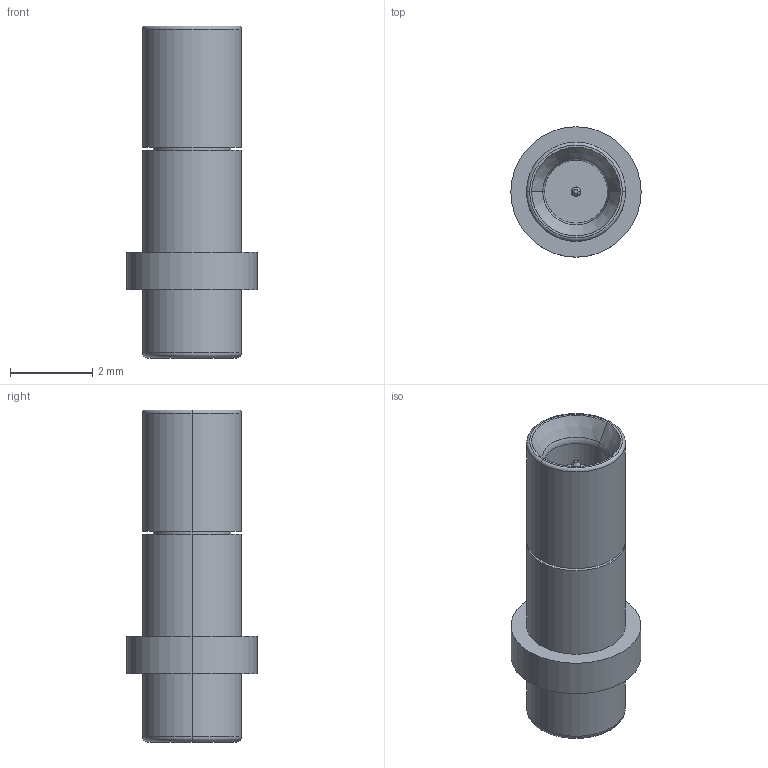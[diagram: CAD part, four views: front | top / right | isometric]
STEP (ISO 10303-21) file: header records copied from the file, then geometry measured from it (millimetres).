
FILE_DESCRIPTION (( 'STEP AP214' ), '1' );
FILE_NAME ('SF1138-6020.STEP', '2020-03-09T12:45:30', ( '' ), ( '' ), 'SwSTEP 2.0', 'SolidWorks 2018', '' );
FILE_SCHEMA (( 'AUTOMOTIVE_DESIGN' ));
Length unit declared in the file: inch
Products named in the file (1): SF1138-6020
Bounding box: 3.17 x 3.17 x 8.09 mm (x, y, z)
Volume: 34.5 mm3; surface area: 94 mm2
Topology: 1 solids, 1 shells, 52 faces, 102 edges, 60 vertices
Faces by surface type: cylinder 22, cone 12, plane 10, torus 8
Entity records: 2045 total; most frequent: DIRECTION 276, CARTESIAN_POINT 215, ORIENTED_EDGE 204, AXIS2_PLACEMENT_3D 121, EDGE_CURVE 102, CIRCLE 68, VERTEX_POINT 60, EDGE_LOOP 60
